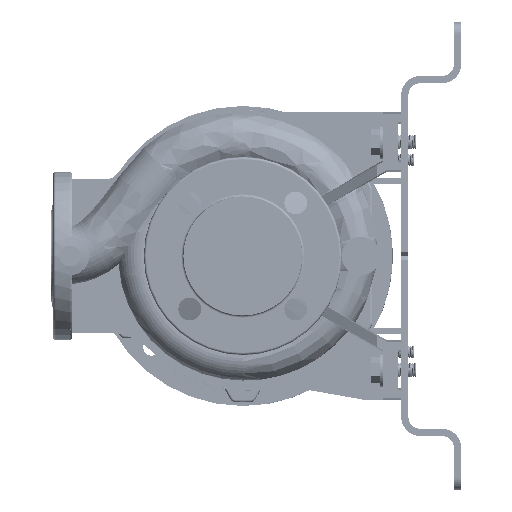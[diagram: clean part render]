
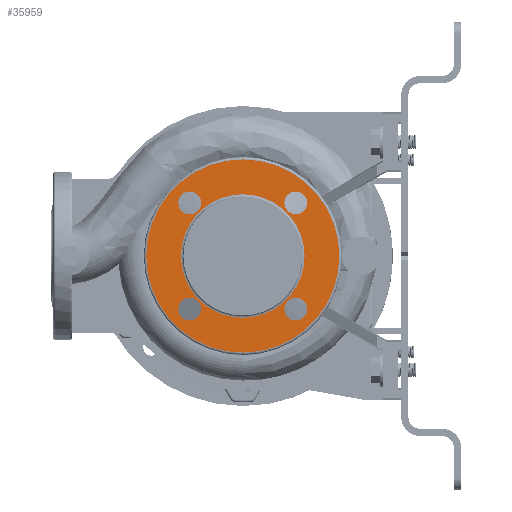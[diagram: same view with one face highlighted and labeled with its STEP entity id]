
A CAD part, left-side view. The second image highlights one B-rep face of the part: STEP entity #35959.
In plain terms, the highlighted planar face has unit normal (-1, 0, 0).
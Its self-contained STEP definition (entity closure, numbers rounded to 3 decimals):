
#172 = DIRECTION ( 'NONE',  ( -1., 0., 0. ) ) ;
#1775 = CARTESIAN_POINT ( 'NONE',  ( -82.456, 122.081, 288.572 ) ) ;
#3295 = DIRECTION ( 'NONE',  ( -1., 0., 0. ) ) ;
#5406 = AXIS2_PLACEMENT_3D ( 'NONE', #91418, #77495, #152104 ) ;
#5921 = AXIS2_PLACEMENT_3D ( 'NONE', #52202, #81046, #66092 ) ;
#6528 = DIRECTION ( 'NONE',  ( -1., 0., 0. ) ) ;
#7491 = DIRECTION ( 'NONE',  ( 0., 0., 1. ) ) ;
#9676 = DIRECTION ( 'NONE',  ( -1., 0., 0. ) ) ;
#10494 = EDGE_CURVE ( 'NONE', #137929, #71340, #124748, .T. ) ;
#13175 = CARTESIAN_POINT ( 'NONE',  ( -82.456, 191.469, 288.572 ) ) ;
#16081 = CARTESIAN_POINT ( 'NONE',  ( -82.456, 156.775, 244.378 ) ) ;
#19158 = DIRECTION ( 'NONE',  ( 0., -1., 0. ) ) ;
#23382 = AXIS2_PLACEMENT_3D ( 'NONE', #162819, #9676, #87181 ) ;
#26647 = PLANE ( 'NONE',  #58248 ) ;
#27366 = EDGE_LOOP ( 'NONE', ( #56136, #40700 ) ) ;
#27538 = EDGE_CURVE ( 'NONE', #71340, #137929, #171057, .T. ) ;
#28899 = EDGE_LOOP ( 'NONE', ( #194658, #114868 ) ) ;
#33790 = EDGE_CURVE ( 'NONE', #159425, #44533, #83701, .T. ) ;
#34750 = DIRECTION ( 'NONE',  ( -1., 0., 0. ) ) ;
#34970 = CARTESIAN_POINT ( 'NONE',  ( -82.456, 156.775, 244.378 ) ) ;
#35060 = CIRCLE ( 'NONE', #57285, 9.5 ) ;
#35959 = ADVANCED_FACE ( 'NONE', ( #131962, #192745, #56465, #117083, #177859, #41582 ), #26647, .F. ) ;
#36167 = CIRCLE ( 'NONE', #166047, 9.5 ) ;
#37406 = CARTESIAN_POINT ( 'NONE',  ( -82.456, 200.969, 200.184 ) ) ;
#38948 = DIRECTION ( 'NONE',  ( -1., 0., 0. ) ) ;
#40131 = ORIENTED_EDGE ( 'NONE', *, *, #27538, .T. ) ;
#40700 = ORIENTED_EDGE ( 'NONE', *, *, #174878, .F. ) ;
#41582 = FACE_OUTER_BOUND ( 'NONE', #120536, .T. ) ;
#42989 = EDGE_LOOP ( 'NONE', ( #129751, #135183 ) ) ;
#44533 = VERTEX_POINT ( 'NONE', #66179 ) ;
#46785 = VERTEX_POINT ( 'NONE', #69835 ) ;
#51585 = DIRECTION ( 'NONE',  ( 0., 1., 0. ) ) ;
#52202 = CARTESIAN_POINT ( 'NONE',  ( -82.456, 112.581, 288.572 ) ) ;
#52461 = EDGE_CURVE ( 'NONE', #159135, #177620, #84365, .T. ) ;
#52931 = DIRECTION ( 'NONE',  ( 0., -1., 0. ) ) ;
#55386 = CIRCLE ( 'NONE', #74346, 51.5 ) ;
#56136 = ORIENTED_EDGE ( 'NONE', *, *, #151252, .F. ) ;
#56465 = FACE_BOUND ( 'NONE', #172870, .T. ) ;
#57285 = AXIS2_PLACEMENT_3D ( 'NONE', #139460, #3295, #52931 ) ;
#57679 = EDGE_CURVE ( 'NONE', #193836, #46785, #100203, .T. ) ;
#58248 = AXIS2_PLACEMENT_3D ( 'NONE', #164877, #178839, #194679 ) ;
#61799 = DIRECTION ( 'NONE',  ( 0., -1., 0. ) ) ;
#62761 = DIRECTION ( 'NONE',  ( -1., 0., 0. ) ) ;
#66092 = DIRECTION ( 'NONE',  ( 0., 0., -1. ) ) ;
#66179 = CARTESIAN_POINT ( 'NONE',  ( -82.456, 210.469, 288.572 ) ) ;
#69835 = CARTESIAN_POINT ( 'NONE',  ( -82.456, 208.275, 244.378 ) ) ;
#71340 = VERTEX_POINT ( 'NONE', #148859 ) ;
#72390 = AXIS2_PLACEMENT_3D ( 'NONE', #16081, #172, #61799 ) ;
#74346 = AXIS2_PLACEMENT_3D ( 'NONE', #142360, #38948, #19158 ) ;
#77495 = DIRECTION ( 'NONE',  ( -1., 0., 0. ) ) ;
#78079 = ORIENTED_EDGE ( 'NONE', *, *, #107310, .F. ) ;
#81046 = DIRECTION ( 'NONE',  ( -1., 0., 0. ) ) ;
#82079 = DIRECTION ( 'NONE',  ( 0., 1., 0. ) ) ;
#83701 = CIRCLE ( 'NONE', #23382, 9.5 ) ;
#84365 = CIRCLE ( 'NONE', #87625, 9.5 ) ;
#87181 = DIRECTION ( 'NONE',  ( 0., -1., 0. ) ) ;
#87625 = AXIS2_PLACEMENT_3D ( 'NONE', #162965, #195744, #163961 ) ;
#87866 = VERTEX_POINT ( 'NONE', #95424 ) ;
#88071 = VERTEX_POINT ( 'NONE', #1775 ) ;
#91418 = CARTESIAN_POINT ( 'NONE',  ( -82.456, 112.581, 288.572 ) ) ;
#91657 = CIRCLE ( 'NONE', #5921, 9.5 ) ;
#95424 = CARTESIAN_POINT ( 'NONE',  ( -82.456, 103.081, 200.184 ) ) ;
#96326 = DIRECTION ( 'NONE',  ( -1., 0., 0. ) ) ;
#100203 = CIRCLE ( 'NONE', #116088, 51.5 ) ;
#100786 = ORIENTED_EDGE ( 'NONE', *, *, #52461, .F. ) ;
#103572 = ORIENTED_EDGE ( 'NONE', *, *, #33790, .F. ) ;
#103881 = EDGE_CURVE ( 'NONE', #88071, #116466, #91657, .T. ) ;
#107310 = EDGE_CURVE ( 'NONE', #44533, #159425, #35060, .T. ) ;
#111276 = CIRCLE ( 'NONE', #149368, 9.5 ) ;
#111436 = EDGE_CURVE ( 'NONE', #177620, #159135, #36167, .T. ) ;
#112613 = VERTEX_POINT ( 'NONE', #124225 ) ;
#114315 = CARTESIAN_POINT ( 'NONE',  ( -82.456, 191.469, 200.184 ) ) ;
#114868 = ORIENTED_EDGE ( 'NONE', *, *, #154954, .F. ) ;
#116088 = AXIS2_PLACEMENT_3D ( 'NONE', #34970, #62761, #184205 ) ;
#116466 = VERTEX_POINT ( 'NONE', #141330 ) ;
#117083 = FACE_BOUND ( 'NONE', #192174, .T. ) ;
#120536 = EDGE_LOOP ( 'NONE', ( #130054, #40131 ) ) ;
#123933 = ORIENTED_EDGE ( 'NONE', *, *, #111436, .F. ) ;
#124225 = CARTESIAN_POINT ( 'NONE',  ( -82.456, 122.081, 200.184 ) ) ;
#124748 = CIRCLE ( 'NONE', #172546, 80.5 ) ;
#129751 = ORIENTED_EDGE ( 'NONE', *, *, #185988, .F. ) ;
#130054 = ORIENTED_EDGE ( 'NONE', *, *, #10494, .T. ) ;
#130982 = CIRCLE ( 'NONE', #166039, 9.5 ) ;
#131962 = FACE_BOUND ( 'NONE', #42989, .T. ) ;
#135183 = ORIENTED_EDGE ( 'NONE', *, *, #103881, .F. ) ;
#137929 = VERTEX_POINT ( 'NONE', #150543 ) ;
#139460 = CARTESIAN_POINT ( 'NONE',  ( -82.456, 200.969, 288.572 ) ) ;
#141330 = CARTESIAN_POINT ( 'NONE',  ( -82.456, 103.081, 288.572 ) ) ;
#141585 = CARTESIAN_POINT ( 'NONE',  ( -82.456, 210.469, 200.184 ) ) ;
#142050 = CARTESIAN_POINT ( 'NONE',  ( -82.456, 156.775, 244.378 ) ) ;
#142360 = CARTESIAN_POINT ( 'NONE',  ( -82.456, 156.775, 244.378 ) ) ;
#146634 = DIRECTION ( 'NONE',  ( -1., 0., 0. ) ) ;
#148859 = CARTESIAN_POINT ( 'NONE',  ( -82.456, 237.275, 244.378 ) ) ;
#149368 = AXIS2_PLACEMENT_3D ( 'NONE', #187850, #34750, #51585 ) ;
#150543 = CARTESIAN_POINT ( 'NONE',  ( -82.456, 76.275, 244.378 ) ) ;
#151252 = EDGE_CURVE ( 'NONE', #87866, #112613, #130982, .T. ) ;
#152104 = DIRECTION ( 'NONE',  ( 0., 0., -1. ) ) ;
#154954 = EDGE_CURVE ( 'NONE', #46785, #193836, #55386, .T. ) ;
#158695 = CARTESIAN_POINT ( 'NONE',  ( -82.456, 112.581, 200.184 ) ) ;
#159135 = VERTEX_POINT ( 'NONE', #141585 ) ;
#159425 = VERTEX_POINT ( 'NONE', #13175 ) ;
#162819 = CARTESIAN_POINT ( 'NONE',  ( -82.456, 200.969, 288.572 ) ) ;
#162965 = CARTESIAN_POINT ( 'NONE',  ( -82.456, 200.969, 200.184 ) ) ;
#163961 = DIRECTION ( 'NONE',  ( 0., 0., 1. ) ) ;
#164877 = CARTESIAN_POINT ( 'NONE',  ( -82.456, 208.275, 244.378 ) ) ;
#165759 = CARTESIAN_POINT ( 'NONE',  ( -82.456, 105.275, 244.378 ) ) ;
#166039 = AXIS2_PLACEMENT_3D ( 'NONE', #158695, #146634, #82079 ) ;
#166047 = AXIS2_PLACEMENT_3D ( 'NONE', #37406, #6528, #7491 ) ;
#167349 = DIRECTION ( 'NONE',  ( 0., -1., 0. ) ) ;
#171057 = CIRCLE ( 'NONE', #72390, 80.5 ) ;
#172546 = AXIS2_PLACEMENT_3D ( 'NONE', #142050, #96326, #167349 ) ;
#172870 = EDGE_LOOP ( 'NONE', ( #123933, #100786 ) ) ;
#173850 = CIRCLE ( 'NONE', #5406, 9.5 ) ;
#174878 = EDGE_CURVE ( 'NONE', #112613, #87866, #111276, .T. ) ;
#177620 = VERTEX_POINT ( 'NONE', #114315 ) ;
#177859 = FACE_BOUND ( 'NONE', #28899, .T. ) ;
#178839 = DIRECTION ( 'NONE',  ( 1., 0., 0. ) ) ;
#184205 = DIRECTION ( 'NONE',  ( 0., -1., 0. ) ) ;
#185988 = EDGE_CURVE ( 'NONE', #116466, #88071, #173850, .T. ) ;
#187850 = CARTESIAN_POINT ( 'NONE',  ( -82.456, 112.581, 200.184 ) ) ;
#192174 = EDGE_LOOP ( 'NONE', ( #103572, #78079 ) ) ;
#192745 = FACE_BOUND ( 'NONE', #27366, .T. ) ;
#193836 = VERTEX_POINT ( 'NONE', #165759 ) ;
#194658 = ORIENTED_EDGE ( 'NONE', *, *, #57679, .F. ) ;
#194679 = DIRECTION ( 'NONE',  ( 0., 1., 0. ) ) ;
#195744 = DIRECTION ( 'NONE',  ( -1., 0., 0. ) ) ;
